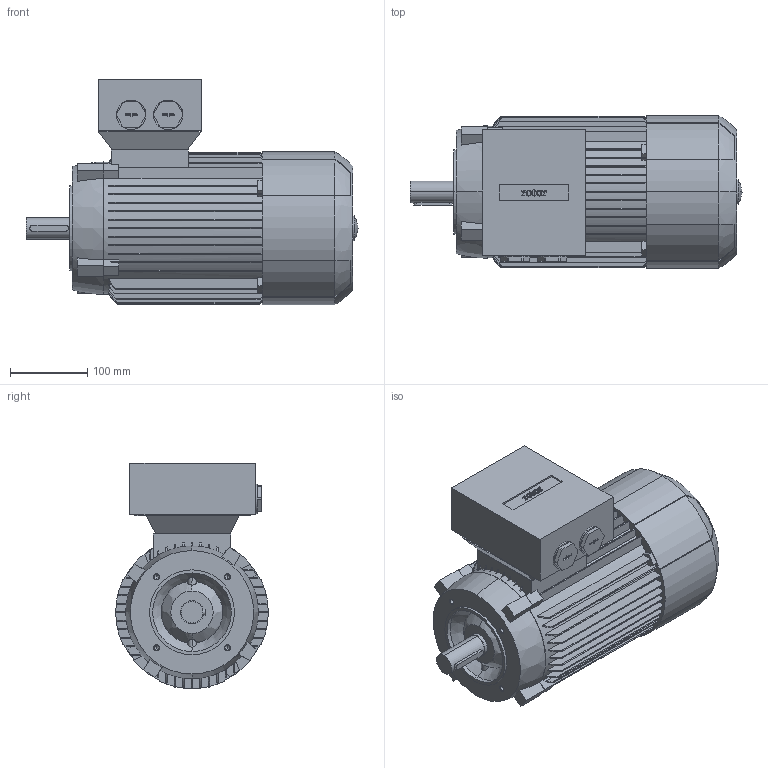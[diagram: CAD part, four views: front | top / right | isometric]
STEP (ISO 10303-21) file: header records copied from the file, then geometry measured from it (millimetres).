
FILE_DESCRIPTION (( 'STEP AP214' ), '1' );
FILE_NAME ('6RN100L04E35 IM3601.STEP', '2014-09-16T11:21:47', ( 'rbc_ict' ), ( 'REGAL' ), 'SwSTEP 2.0', 'SolidWorks 2012', '' );
FILE_SCHEMA (( 'AUTOMOTIVE_DESIGN' ));
Length unit declared in the file: millimetre
Products named in the file (1): 6RN100L04E35 IM3601
Bounding box: 430.5 x 198 x 292 mm (x, y, z)
Volume: 11265210.6 mm3; surface area: 558233.7 mm2
Topology: 1 solids, 1 shells, 619 faces, 1745 edges, 1148 vertices
Faces by surface type: plane 336, bspline 144, cylinder 117, cone 22
Entity records: 24080 total; most frequent: CARTESIAN_POINT 8886, ORIENTED_EDGE 3470, DIRECTION 2768, EDGE_CURVE 1735, VERTEX_POINT 1148, LINE 952, VECTOR 952, AXIS2_PLACEMENT_3D 908
